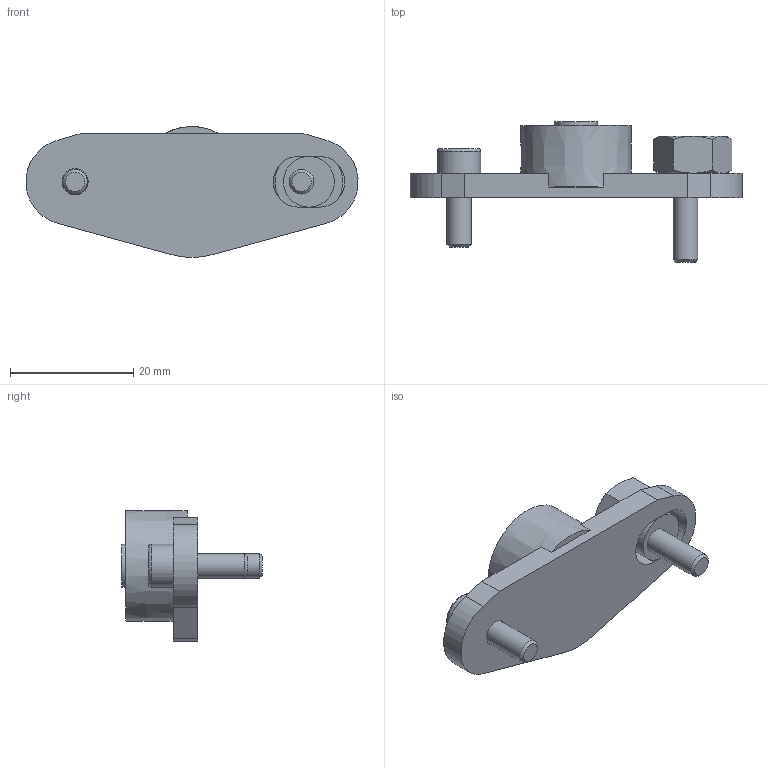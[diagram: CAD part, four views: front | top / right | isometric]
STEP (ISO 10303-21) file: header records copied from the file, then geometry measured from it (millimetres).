
FILE_DESCRIPTION( ( 'STEP AP203' ), '1' );
FILE_NAME( 'p:/temp/worker_105/temp/exporttempdir_7072_622_kqyYL/format_0/BHR18E.stp', '2021-09-29T07:20:13', ( 'License CC BY-ND 4.0' ), ( 'CADENAS' ), ' ', 'PARTsolutions', ' ' );
FILE_SCHEMA( ( 'CONFIG_CONTROL_DESIGN' ) );
Length unit declared in the file: millimetre
Products named in the file (4): BHR18E; _BHR18ENS_E; HI_DIN912-M4x12; _BHR18ENS_SE
Assembly tree (3 placements, depth 2):
  BHR18E
    _BHR18ENS_E
    HI_DIN912-M4x12
    _BHR18ENS_SE
Bounding box: 53.95 x 22.9 x 21.27 mm (x, y, z)
Volume: 6302.8 mm3; surface area: 3725.6 mm2
Topology: 3 solids, 3 shells, 90 faces, 206 edges, 129 vertices
Faces by surface type: plane 52, cone 22, cylinder 12, torus 3, bspline 1
Full cylindrical faces by diameter (mm): 4 x2, 4.25 x1, 7 x3, 8.25 x1
Entity records: 2684 total; most frequent: CARTESIAN_POINT 600, DIRECTION 400, ORIENTED_EDGE 378, EDGE_CURVE 189, AXIS2_PLACEMENT_3D 150, VERTEX_POINT 128, EDGE_LOOP 116, FACE_OUTER_BOUND 101
